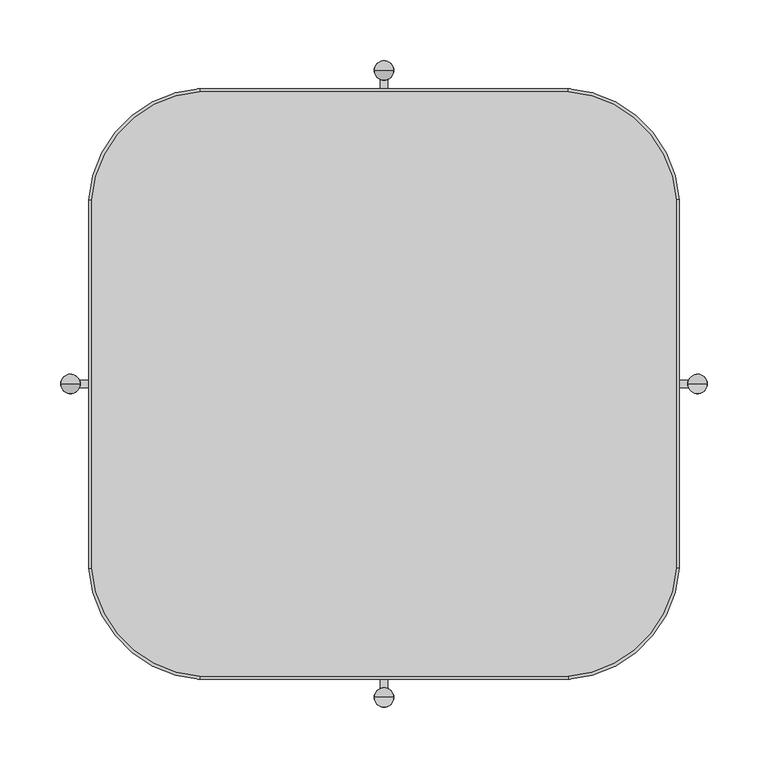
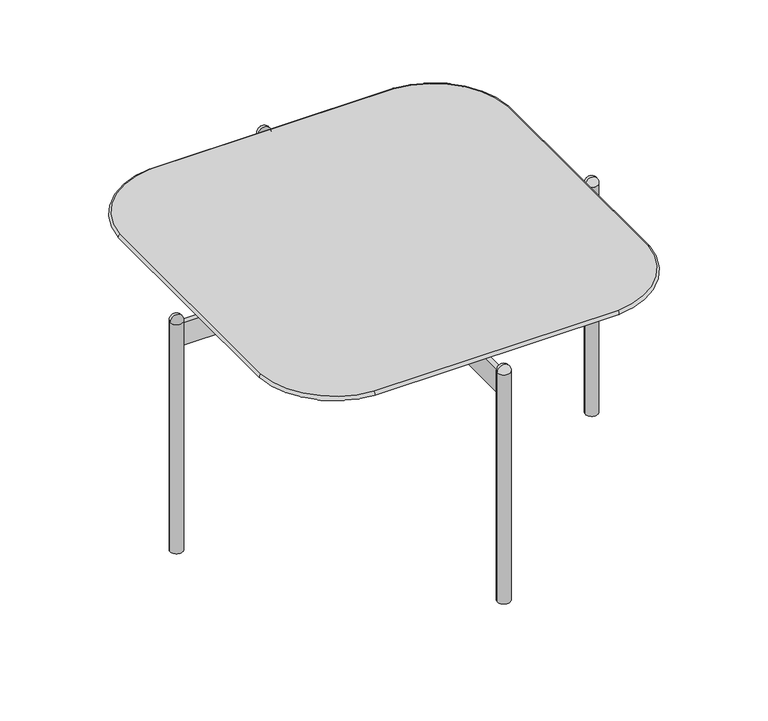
"""IFC4 building model written with IfcOpenShell, lengths in millimetres: furniture geometry, RECTANGULAR TABLE_H=31 : EI131B055050A_L."""

import ifcopenshell
import ifcopenshell.guid

model = None  # the IFC model being written
_history = None  # IfcOwnerHistory: only IFC2X3 demands one
_inside = {}  # id of a spatial element -> (the spatial element, [elements in it])
_under = {}  # id of a project, library or spatial element -> (it, [spatial elements below it])
_declared = {}  # id of a project -> (the project, [libraries it declares])
_typed = {}  # id of a type object -> (the type object, [elements of that type])
_made_of = {}  # id of a material, layer set ... -> (it, [elements and type objects made of it])


def new_model(schema):
    """Start an empty IFC model of exactly this schema.

    Asked for "IFC4X3", IfcOpenShell would pick the latest addendum, in which some entities
    have other attributes; the version numbers below select the first issue.
    IFC2X3 requires an IfcOwnerHistory on every rooted entity: one is made here for all.
    """
    global model, _history
    if schema == "IFC4X3":
        model = ifcopenshell.file(schema_version=(4, 3, 0, 0))
    else:
        model = ifcopenshell.file(schema=schema)
    _inside.clear()
    _under.clear()
    _declared.clear()
    _typed.clear()
    _made_of.clear()
    _history = None
    if model.schema == "IFC2X3":
        org = make("IfcOrganization", Name="unknown")
        user = make(
            "IfcPersonAndOrganization",
            ThePerson=make("IfcPerson", FamilyName="unknown"),
            TheOrganization=org,
        )
        app = make(
            "IfcApplication",
            ApplicationDeveloper=org,
            Version="unknown",
            ApplicationFullName="unknown",
            ApplicationIdentifier="unknown",
        )
        _history = make(
            "IfcOwnerHistory",
            OwningUser=user,
            OwningApplication=app,
            ChangeAction="ADDED",
            CreationDate=0,
        )
    return model


def make(cls, **values):
    """One entity of the class cls with the attributes given. An attribute that is None is left unset."""
    return model.create_entity(
        cls, **{name: value for name, value in values.items() if value is not None}
    )


def rooted(cls, **values):
    """An entity with a GlobalId (a new one), such as an element, a storey or a relation."""
    return make(cls, GlobalId=ifcopenshell.guid.new(), OwnerHistory=_history, **values)


def si_unit(unit_type, name, prefix=None):
    """IfcSIUnit, for example si_unit("LENGTHUNIT", "METRE", prefix="MILLI")."""
    return make("IfcSIUnit", UnitType=unit_type, Prefix=prefix, Name=name)


def assignment(units):
    """IfcUnitAssignment: the units of a project."""
    return None if units is None else make("IfcUnitAssignment", Units=units)


def point(xyz):
    """IfcCartesianPoint."""
    return None if xyz is None else make("IfcCartesianPoint", Coordinates=xyz)


def direction(xyz):
    """IfcDirection."""
    return None if xyz is None else make("IfcDirection", DirectionRatios=xyz)


def frame(location, z_axis=None, x_axis=None):
    """IfcAxis2Placement3D, a coordinate frame: its origin and axes. An axis left out is left unset."""
    return make(
        "IfcAxis2Placement3D",
        Location=point(location),
        Axis=direction(z_axis),
        RefDirection=direction(x_axis),
    )


def frame_2d(location, x_axis=None):
    """IfcAxis2Placement2D, a coordinate frame in the plane: its origin and x axis."""
    return make(
        "IfcAxis2Placement2D", Location=point(location), RefDirection=direction(x_axis)
    )


def origin():
    """The frame at (0, 0, 0) with its axes left unset."""
    return frame((0.0, 0.0, 0.0))


def origin_with_axes():
    """The frame at (0, 0, 0) with the z axis (0, 0, 1) and the x axis (1, 0, 0) written out."""
    return frame((0.0, 0.0, 0.0), z_axis=(0.0, 0.0, 1.0), x_axis=(1.0, 0.0, 0.0))


def origin_2d():
    """The frame at (0, 0) in the plane with its x axis left unset."""
    return frame_2d((0.0, 0.0))


def place(relative_to, where):
    """IfcLocalPlacement: puts the frame where relative to a parent placement (None: the world)."""
    return make(
        "IfcLocalPlacement", PlacementRelTo=relative_to, RelativePlacement=where
    )


def context(
    kind, dimensions, precision=None, world=None, true_north=None, identifier=None
):
    """IfcGeometricRepresentationContext, for example the 3D "Model" context."""
    return make(
        "IfcGeometricRepresentationContext",
        ContextIdentifier=identifier,
        ContextType=kind,
        CoordinateSpaceDimension=dimensions,
        Precision=precision,
        WorldCoordinateSystem=world,
        TrueNorth=true_north,
    )


def project(units=None, contexts=None):
    """IfcProject with its units and contexts."""
    return rooted(
        "IfcProject",
        Name="project",
        RepresentationContexts=contexts,
        UnitsInContext=assignment(units),
    )


def spatial(cls, under=None, at=None, **own):
    """A site, building, storey or space (cls), placed at a placement, below another one or the project."""
    s = rooted(cls, ObjectPlacement=at, **own)
    if under is not None:
        _under.setdefault(under.id(), (under, []))[1].append(s)
    return s


def polyline(points):
    """IfcPolyline through the points."""
    return make("IfcPolyline", Points=[point(p) for p in points])


def circle_curve(where, radius):
    """IfcCircle in the frame where."""
    return make("IfcCircle", Position=where, Radius=radius)


def ellipse_curve(where, semi_axis1, semi_axis2):
    """IfcEllipse in the frame where."""
    return make(
        "IfcEllipse", Position=where, SemiAxis1=semi_axis1, SemiAxis2=semi_axis2
    )


def trimmed(basis, trim1, trim2, sense, master):
    """IfcTrimmedCurve: the piece of a basis curve between two trims."""
    return make(
        "IfcTrimmedCurve",
        BasisCurve=basis,
        Trim1=trim1,
        Trim2=trim2,
        SenseAgreement=sense,
        MasterRepresentation=master,
    )


def segment(curve, same_sense, transition):
    """IfcCompositeCurveSegment."""
    return make(
        "IfcCompositeCurveSegment",
        Transition=transition,
        SameSense=same_sense,
        ParentCurve=curve,
    )


def composite_curve(segments, self_intersect=None):
    """IfcCompositeCurve: segments joined end to end."""
    return make("IfcCompositeCurve", Segments=segments, SelfIntersect=self_intersect)


def outline(outer, holes=None, kind="AREA"):
    """IfcArbitraryClosedProfileDef: a profile drawn as a closed curve; with holes, ...WithVoids."""
    if holes is None:
        return make("IfcArbitraryClosedProfileDef", ProfileType=kind, OuterCurve=outer)
    return make(
        "IfcArbitraryProfileDefWithVoids",
        ProfileType=kind,
        OuterCurve=outer,
        InnerCurves=holes,
    )


def extrude(swept, where, along, depth):
    """IfcExtrudedAreaSolid: the profile swept, set in the frame where, extruded along a direction by depth."""
    return make(
        "IfcExtrudedAreaSolid",
        SweptArea=swept,
        Position=where,
        ExtrudedDirection=direction(along),
        Depth=depth,
    )


def shape(context_of_items, identifier, shape_type, items):
    """IfcShapeRepresentation: the items that make up one representation, for example the "Body"."""
    return make(
        "IfcShapeRepresentation",
        ContextOfItems=context_of_items,
        RepresentationIdentifier=identifier,
        RepresentationType=shape_type,
        Items=items,
    )


def source(mapping_origin, context_of_items, identifier, shape_type, items):
    """IfcRepresentationMap: a shape defined once, which mapped items show again and again."""
    return make(
        "IfcRepresentationMap",
        MappingOrigin=mapping_origin,
        MappedRepresentation=shape(context_of_items, identifier, shape_type, items),
    )


def transform(
    local_origin,
    x_axis=None,
    y_axis=None,
    z_axis=None,
    scale=None,
    scale2=None,
    scale3=None,
    uniform=True,
):
    """IfcCartesianTransformationOperator3D, or its non-uniform kind. x_axis, y_axis, z_axis: its Axis1, 2, 3."""
    if uniform:
        return make(
            "IfcCartesianTransformationOperator3D",
            Axis1=direction(x_axis),
            Axis2=direction(y_axis),
            LocalOrigin=point(local_origin),
            Scale=scale,
            Axis3=direction(z_axis),
        )
    return make(
        "IfcCartesianTransformationOperator3DnonUniform",
        Axis1=direction(x_axis),
        Axis2=direction(y_axis),
        LocalOrigin=point(local_origin),
        Scale=scale,
        Axis3=direction(z_axis),
        Scale2=scale2,
        Scale3=scale3,
    )


def mapped(mapping_source, mapping_target):
    """IfcMappedItem: shows the shape of a source again, moved by a transform."""
    return make(
        "IfcMappedItem", MappingSource=mapping_source, MappingTarget=mapping_target
    )


def made_of(thing, what):
    """Note that an element or type object is made of a material, layer set ...; save() writes the relation."""
    if what is not None:
        _made_of.setdefault(what.id(), (what, []))[1].append(thing)
    return thing


def element(
    cls,
    number,
    at=None,
    inside=None,
    cuts=None,
    type_object=None,
    material=None,
    context=None,
    identifier="Body",
    shape_type=None,
    held_by="IfcProductDefinitionShape",
    body=None,
    shapes=None,
    **own,
):
    """One element of the class cls, such as IfcWall. Its Tag is "e" and its number.

    at: its placement. inside: the storey or other place that contains it. cuts: it is an
    opening in that element (IfcRelVoidsElement). A single representation is given by context,
    identifier, shape_type and body (its items); several are given by shapes. held_by: the class
    of the entity that holds the representations. save() writes the other relations.
    """
    e = rooted(cls, Tag="e%d" % number, ObjectPlacement=at, **own)
    if body is not None:
        shapes = [shape(context, identifier, shape_type, body)]
    if shapes is not None:
        e.Representation = make(held_by, Representations=shapes)
    if inside is not None:
        _inside.setdefault(inside.id(), (inside, []))[1].append(e)
    if cuts is not None:
        rooted(
            "IfcRelVoidsElement", RelatingBuildingElement=cuts, RelatedOpeningElement=e
        )
    if type_object is not None:
        _typed.setdefault(type_object.id(), (type_object, []))[1].append(e)
    return made_of(e, material)


def aggregate(whole, parts):
    """IfcRelAggregates: a whole, such as a stair, and the parts it consists of."""
    return rooted("IfcRelAggregates", RelatingObject=whole, RelatedObjects=parts)


def save(model, path):
    """Write the relations noted so far, then the file.

    IfcRelAggregates (storeys below a building ...), IfcRelContainedInSpatialStructure (elements
    in a storey), IfcRelDefinesByType, IfcRelAssociatesMaterial and IfcRelDeclares: one each for
    every whole, place, type object, material and project.
    """
    for whole, parts in _under.values():
        aggregate(whole, parts)
    for where, things in _inside.values():
        rooted(
            "IfcRelContainedInSpatialStructure",
            RelatedElements=things,
            RelatingStructure=where,
        )
    for kind, things in _typed.values():
        rooted("IfcRelDefinesByType", RelatedObjects=things, RelatingType=kind)
    for what, things in _made_of.values():
        rooted("IfcRelAssociatesMaterial", RelatedObjects=things, RelatingMaterial=what)
    for by, libraries in _declared.values():
        rooted("IfcRelDeclares", RelatingContext=by, RelatedDefinitions=libraries)
    model.write(path)


def plane_surface(at):
    """IfcPlane: the flat surface through the origin of the frame at, square to its z axis."""
    return make("IfcPlane", Position=at)


def revolved_surface(curve, axis_point, axis_direction):
    """IfcSurfaceOfRevolution: the curve turned about the line through axis_point along axis_direction."""
    return make(
        "IfcSurfaceOfRevolution",
        SweptCurve=make("IfcArbitraryOpenProfileDef", ProfileType="CURVE", Curve=curve),
        AxisPosition=make("IfcAxis1Placement", Location=point(axis_point), Axis=direction(axis_direction)),
    )


def advanced_brep(points, edges, surfaces, faces):
    """IfcAdvancedBrep: a solid bounded by faces that lie on surfaces and meet in shared edges.

    An edge is (start, end): straight between two places in points (the first is 0);
    or (start, end, curve); or (start, end, curve, False) where it runs against its curve.
    A face is (place in surfaces, loops), or (place, loops, False) where it looks against
    its surface's normal. A loop lists edges by number (the first is 1), with a minus sign
    where the edge is run from its end to its start. The first loop is the outer one.
    """
    corners = [point(p) for p in points]
    vertices = [make("IfcVertexPoint", VertexGeometry=c) for c in corners]
    made = []
    for start, end, *more in edges:
        made.append(
            make(
                "IfcEdgeCurve",
                EdgeStart=vertices[start],
                EdgeEnd=vertices[end],
                EdgeGeometry=more[0] if more else make("IfcPolyline", Points=[corners[start], corners[end]]),
                SameSense=more[1] if len(more) > 1 else True,
            )
        )
    hull = []
    for where, loops, *sense in faces:
        bounds = []
        for j, loop in enumerate(loops):
            ring = [make("IfcOrientedEdge", EdgeElement=made[abs(k) - 1], Orientation=k > 0) for k in loop]
            bounds.append(
                make(
                    "IfcFaceOuterBound" if j == 0 else "IfcFaceBound",
                    Bound=make("IfcEdgeLoop", EdgeList=ring),
                    Orientation=True,
                )
            )
        hull.append(make("IfcAdvancedFace", Bounds=bounds, FaceSurface=surfaces[where], SameSense=sense[0] if sense else True))
    return make("IfcAdvancedBrep", Outer=make("IfcClosedShell", CfsFaces=hull))


def furniture_a31ff325(model_context):
    return source(origin(), model_context, "Body", "SolidModel", [
        advanced_brep(
        [(-151.5352053, 240.3960668, 316.6939464), (-240.3960667, 151.5352053, 316.6939464), (-240.3960667, -151.5352052, 316.6939464), (-151.5352052, -240.3960667, 316.6939464), (151.5352053, -240.3960667, 316.6939464), (240.3960668, -151.5352052, 316.6939464), (240.3960668, 151.5352053, 316.6939464), (151.5352053, 240.3960668, 316.6939464), (-206.3711893, 149.2440678, 297.6939464), (-149.2440678, 206.3711893, 297.6939464), (149.2440678, 206.3711893, 297.6939464), (206.3711893, 149.2440678, 297.6939464), (206.3711893, -149.2440677, 297.6939464), (149.2440678, -206.3711893, 297.6939464), (-149.2440677, -206.3711893, 297.6939464), (-206.3711893, -149.2440677, 297.6939464), (-241.2735449, 151.5942922, 311.8273473), (-151.5942921, 241.273545, 311.8273473), (-241.2735449, -151.5942921, 311.8273473), (-151.5942921, -241.2735449, 311.8273473), (151.5942921, -241.2735449, 311.8273473), (241.273545, -151.5942921, 311.8273473), (241.273545, 151.5942921, 311.8273473), (151.5942921, 241.273545, 311.8273473)],
        [
            (0, 1, circle_curve(frame((-145.119559, 145.119559, 316.6939464), z_axis=(0.0, 0.0, 1.0), x_axis=(-0.06718498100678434, 0.997740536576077, 0.0)), 95.492269)),
            (1, 2, circle_curve(frame((2010.0000004, 0.0, 316.6939464), z_axis=(0.0, 0.0, 1.0), x_axis=(-0.9977405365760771, 0.06718498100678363, 0.0)), 2255.4922694)),
            (2, 3, circle_curve(frame((-145.1195589, -145.1195589, 316.6939464), z_axis=(0.0, 0.0, 1.0), x_axis=(-0.9977405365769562, -0.06718498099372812, 0.0)), 95.492269)),
            (3, 4, circle_curve(frame((0.0, 2010.0000004, 316.6939464), z_axis=(0.0, 0.0, 1.0), x_axis=(-0.06718498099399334, -0.9977405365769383, 0.0)), 2255.4922694)),
            (4, 5, circle_curve(frame((145.119559, -145.1195589, 316.6939464), z_axis=(0.0, 0.0, 1.0), x_axis=(0.06718498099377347, -0.997740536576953, 0.0)), 95.492269)),
            (5, 6, circle_curve(frame((-2010.0000004, 0.0, 316.6939464), z_axis=(0.0, 0.0, 1.0), x_axis=(0.9977405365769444, -0.0671849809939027, 0.0)), 2255.4922694)),
            (6, 7, circle_curve(frame((145.119559, 145.119559, 316.6939464), z_axis=(0.0, 0.0, 1.0), x_axis=(0.9977405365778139, 0.06718498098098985, 0.0)), 95.4922691)),
            (7, 0, circle_curve(frame((0.0, -2010.0000004, 316.6939464), z_axis=(0.0, 0.0, 1.0), x_axis=(0.06718498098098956, 0.9977405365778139, 0.0)), 2255.4922694)),
            (8, 9, circle_curve(frame((-145.119559, 145.119559, 297.6939464), z_axis=(0.0, 0.0, -1.0), x_axis=(-0.06718498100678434, 0.997740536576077, 0.0)), 61.3903395)),
            (9, 10, circle_curve(frame((0.0, -2010.0000004, 297.6939464), z_axis=(0.0, 0.0, -1.0), x_axis=(0.06718498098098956, 0.9977405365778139, 0.0)), 2221.3903399)),
            (10, 11, circle_curve(frame((145.119559, 145.119559, 297.6939464), z_axis=(0.0, 0.0, -1.0), x_axis=(0.9977405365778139, 0.06718498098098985, 0.0)), 61.3903396)),
            (11, 12, circle_curve(frame((-2010.0000004, 0.0, 297.6939464), z_axis=(0.0, 0.0, -1.0), x_axis=(0.9977405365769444, -0.0671849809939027, 0.0)), 2221.3903399)),
            (12, 13, circle_curve(frame((145.119559, -145.1195589, 297.6939464), z_axis=(0.0, 0.0, -1.0), x_axis=(0.06718498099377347, -0.997740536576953, 0.0)), 61.3903396)),
            (13, 14, circle_curve(frame((0.0, 2010.0000004, 297.6939464), z_axis=(0.0, 0.0, -1.0), x_axis=(-0.06718498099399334, -0.9977405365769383, 0.0)), 2221.3903399)),
            (14, 15, circle_curve(frame((-145.1195589, -145.1195589, 297.6939464), z_axis=(0.0, 0.0, -1.0), x_axis=(-0.9977405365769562, -0.06718498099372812, 0.0)), 61.3903396)),
            (15, 8, circle_curve(frame((2010.0000004, 0.0, 297.6939464), z_axis=(0.0, 0.0, -1.0), x_axis=(-0.9977405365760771, 0.06718498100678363, 0.0)), 2221.3903399)),
            (16, 1, circle_curve(frame((-240.3960667, 151.5352053, 314.1811807), z_axis=(0.06718498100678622, 0.9977405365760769, 0.0), x_axis=(0.9977405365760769, -0.06718498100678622, 0.0)), 2.5127656)),
            (0, 17, circle_curve(frame((-151.5352053, 240.3960668, 314.1811807), z_axis=(-0.997740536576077, -0.06718498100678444, 0.0), x_axis=(0.06718498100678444, -0.997740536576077, 0.0)), 2.5127656)),
            (17, 16, circle_curve(frame((-145.119559, 145.119559, 311.8273473), z_axis=(0.0, 0.0, 1.0), x_axis=(-0.06718498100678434, 0.997740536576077, 0.0)), 96.3717344)),
            (17, 9),
            (8, 16),
            (16, 18, circle_curve(frame((2010.0000004, 0.0, 311.8273473), z_axis=(0.0, 0.0, 1.0), x_axis=(-0.9977405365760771, 0.06718498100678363, 0.0)), 2256.3717348)),
            (18, 2, circle_curve(frame((-240.3960667, -151.5352052, 314.1811807), z_axis=(-0.06718498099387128, 0.9977405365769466, 0.0), x_axis=(0.9977405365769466, 0.06718498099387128, 0.0)), 2.5127656)),
            (15, 18),
            (18, 19, circle_curve(frame((-145.1195589, -145.1195589, 311.8273473), z_axis=(0.0, 0.0, 1.0), x_axis=(-0.9977405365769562, -0.06718498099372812, 0.0)), 96.3717344)),
            (19, 3, circle_curve(frame((-151.5352052, -240.3960667, 314.1811807), z_axis=(-0.9977405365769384, 0.06718498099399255, 0.0), x_axis=(0.06718498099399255, 0.9977405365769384, 0.0)), 2.5127656)),
            (14, 19),
            (19, 20, circle_curve(frame((0.0, 2010.0000004, 311.8273473), z_axis=(0.0, 0.0, 1.0), x_axis=(-0.06718498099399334, -0.9977405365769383, 0.0)), 2256.3717348)),
            (20, 4, circle_curve(frame((151.5352053, -240.3960667, 314.1811807), z_axis=(-0.997740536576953, -0.06718498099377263, 0.0), x_axis=(-0.06718498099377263, 0.997740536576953, 0.0)), 2.5127656)),
            (13, 20),
            (20, 21, circle_curve(frame((145.119559, -145.1195589, 311.8273473), z_axis=(0.0, 0.0, 1.0), x_axis=(0.06718498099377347, -0.997740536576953, 0.0)), 96.3717344)),
            (21, 5, circle_curve(frame((240.3960668, -151.5352052, 314.1811807), z_axis=(-0.06718498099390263, -0.9977405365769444, 0.0), x_axis=(-0.9977405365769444, 0.06718498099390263, 0.0)), 2.5127656)),
            (12, 21),
            (21, 22, circle_curve(frame((-2010.0000004, 0.0, 311.8273473), z_axis=(0.0, 0.0, 1.0), x_axis=(0.9977405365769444, -0.0671849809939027, 0.0)), 2256.3717348)),
            (22, 6, circle_curve(frame((240.3960668, 151.5352053, 314.1811807), z_axis=(0.0671849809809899, -0.9977405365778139, 0.0), x_axis=(-0.9977405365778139, -0.0671849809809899, 0.0)), 2.5127656)),
            (11, 22),
            (22, 23, circle_curve(frame((145.119559, 145.119559, 311.8273473), z_axis=(0.0, 0.0, 1.0), x_axis=(0.9977405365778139, 0.06718498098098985, 0.0)), 96.3717344)),
            (23, 7, circle_curve(frame((151.5352053, 240.3960668, 314.1811807), z_axis=(0.997740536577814, -0.06718498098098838, 0.0), x_axis=(-0.06718498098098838, -0.997740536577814, 0.0)), 2.5127656)),
            (10, 23),
            (23, 17, circle_curve(frame((0.0, -2010.0000004, 311.8273473), z_axis=(0.0, 0.0, 1.0), x_axis=(0.06718498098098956, 0.9977405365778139, 0.0)), 2256.3717348)),
        ],
        [
            plane_surface(frame((4269.0000009, 0.0, 316.6939464), z_axis=(0.0, 0.0, 1.0), x_axis=(0.0, 1.0, 0.0))),
            plane_surface(frame((4269.0000009, 0.0, 297.6939464), z_axis=(0.0, 0.0, -1.0), x_axis=(0.0, -1.0, 0.0))),
            revolved_surface(trimmed(ellipse_curve(frame((-151.5352053, 240.3960668, 314.1811807), z_axis=(0.997740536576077, 0.06718498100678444, 0.0), x_axis=(0.06718498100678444, -0.997740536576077, 0.0)), 2.5127656, 2.5127656), [point((-151.5942921, 241.273545, 311.8273473))], [point((-151.5352053, 240.3960668, 316.6939464))], True, "CARTESIAN"), (-145.119559, 145.119559, 297.6939464), (0.0, 0.0, 1.0)),
            revolved_surface(polyline([(-149.2440678, 206.3711893, 297.6939464), (-151.5942921, 241.273545, 311.8273473)]), (-145.119559, 145.119559, 297.6939464), (0.0, 0.0, 1.0)),
            revolved_surface(trimmed(ellipse_curve(frame((-240.3960667, 151.5352053, 314.1811807), z_axis=(0.0671849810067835, 0.9977405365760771, 0.0), x_axis=(0.9977405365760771, -0.0671849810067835, 0.0)), 2.5127656, 2.5127656), [point((-241.2735449, 151.5942922, 311.8273473))], [point((-240.3960667, 151.5352053, 316.6939464))], True, "CARTESIAN"), (2010.0000004, 0.0, 297.6939464), (0.0, 0.0, 1.0)),
            revolved_surface(polyline([(-206.3711893, 149.2440678, 297.6939464), (-241.2735449, 151.5942922, 311.8273473)]), (2010.0000004, 0.0, 297.6939464), (0.0, 0.0, 1.0)),
            revolved_surface(trimmed(ellipse_curve(frame((-240.3960667, -151.5352052, 314.1811807), z_axis=(-0.06718498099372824, 0.9977405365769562, 0.0), x_axis=(0.9977405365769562, 0.06718498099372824, 0.0)), 2.5127656, 2.5127656), [point((-241.2735449, -151.5942921, 311.8273473))], [point((-240.3960667, -151.5352052, 316.6939464))], True, "CARTESIAN"), (-145.1195589, -145.1195589, 297.6939464), (0.0, 0.0, 1.0)),
            revolved_surface(polyline([(-206.3711893, -149.2440677, 297.6939464), (-241.2735449, -151.5942921, 311.8273473)]), (-145.1195589, -145.1195589, 297.6939464), (0.0, 0.0, 1.0)),
            revolved_surface(trimmed(ellipse_curve(frame((-151.5352052, -240.3960667, 314.1811807), z_axis=(-0.9977405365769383, 0.06718498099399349, 0.0), x_axis=(0.06718498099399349, 0.9977405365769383, 0.0)), 2.5127656, 2.5127656), [point((-151.5942921, -241.2735449, 311.8273473))], [point((-151.5352052, -240.3960667, 316.6939464))], True, "CARTESIAN"), (0.0, 2010.0000004, 297.6939464), (0.0, 0.0, 1.0)),
            revolved_surface(polyline([(-149.2440677, -206.3711893, 297.6939464), (-151.5942921, -241.2735449, 311.8273473)]), (0.0, 2010.0000004, 297.6939464), (0.0, 0.0, 1.0)),
            revolved_surface(trimmed(ellipse_curve(frame((151.5352053, -240.3960667, 314.1811807), z_axis=(-0.997740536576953, -0.06718498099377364, 0.0), x_axis=(-0.06718498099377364, 0.997740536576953, 0.0)), 2.5127656, 2.5127656), [point((151.5942921, -241.2735449, 311.8273473))], [point((151.5352053, -240.3960667, 316.6939464))], True, "CARTESIAN"), (145.119559, -145.1195589, 297.6939464), (0.0, 0.0, 1.0)),
            revolved_surface(polyline([(149.2440678, -206.3711893, 297.6939464), (151.5942921, -241.2735449, 311.8273473)]), (145.119559, -145.1195589, 297.6939464), (0.0, 0.0, 1.0)),
            revolved_surface(trimmed(ellipse_curve(frame((240.3960668, -151.5352052, 314.1811807), z_axis=(-0.06718498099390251, -0.9977405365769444, 0.0), x_axis=(-0.9977405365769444, 0.06718498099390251, 0.0)), 2.5127656, 2.5127656), [point((241.273545, -151.5942921, 311.8273473))], [point((240.3960668, -151.5352052, 316.6939464))], True, "CARTESIAN"), (-2010.0000004, 0.0, 297.6939464), (0.0, 0.0, 1.0)),
            revolved_surface(polyline([(206.3711893, -149.2440677, 297.6939464), (241.273545, -151.5942921, 311.8273473)]), (-2010.0000004, 0.0, 297.6939464), (0.0, 0.0, 1.0)),
            revolved_surface(trimmed(ellipse_curve(frame((240.3960668, 151.5352053, 314.1811807), z_axis=(0.06718498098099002, -0.9977405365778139, 0.0), x_axis=(-0.9977405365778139, -0.06718498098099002, 0.0)), 2.5127656, 2.5127656), [point((241.273545, 151.5942921, 311.8273473))], [point((240.3960668, 151.5352053, 316.6939464))], True, "CARTESIAN"), (145.119559, 145.119559, 297.6939464), (0.0, 0.0, 1.0)),
            revolved_surface(polyline([(206.3711893, 149.2440678, 297.6939464), (241.273545, 151.5942921, 311.8273473)]), (145.119559, 145.119559, 297.6939464), (0.0, 0.0, 1.0)),
            revolved_surface(trimmed(ellipse_curve(frame((151.5352053, 240.3960668, 314.1811807), z_axis=(0.9977405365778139, -0.0671849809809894, 0.0), x_axis=(-0.0671849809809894, -0.9977405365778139, 0.0)), 2.5127656, 2.5127656), [point((151.5942921, 241.273545, 311.8273473))], [point((151.5352053, 240.3960668, 316.6939464))], True, "CARTESIAN"), (0.0, -2010.0000004, 297.6939464), (0.0, 0.0, 1.0)),
            revolved_surface(polyline([(149.2440678, 206.3711893, 297.6939464), (151.5942921, 241.273545, 311.8273473)]), (0.0, -2010.0000004, 297.6939464), (0.0, 0.0, 1.0)),
        ],
        [
            (0, [[1, 2, 3, 4, 5, 6, 7, 8]]),
            (1, [[9, 10, 11, 12, 13, 14, 15, 16]]),
            (2, [[17, -1, 18, 19]]),
            (3, [[-19, 20, -9, 21]]),
            (4, [[-17, 22, 23, -2]]),
            (5, [[-21, -16, 24, -22]]),
            (6, [[-23, 25, 26, -3]]),
            (7, [[-24, -15, 27, -25]]),
            (8, [[-26, 28, 29, -4]]),
            (9, [[-27, -14, 30, -28]]),
            (10, [[-29, 31, 32, -5]]),
            (11, [[-30, -13, 33, -31]]),
            (12, [[-32, 34, 35, -6]]),
            (13, [[-33, -12, 36, -34]]),
            (14, [[-35, 37, 38, -7]]),
            (15, [[-36, -11, 39, -37]]),
            (16, [[-18, -8, -38, 40]]),
            (17, [[-20, -40, -39, -10]]),
        ],
    ),
        advanced_brep(
        [(-8.0, -257.95, 301.1666667), (8.0, -257.95, 301.1666667), (0.0, -257.95, 309.1666667), (0.0, -257.95, 301.1666667)],
        [
            (0, 1, circle_curve(frame((0.0, -257.95, 301.1666667), z_axis=(0.0, 0.0, 1.0), x_axis=(1.0, 0.0, 0.0)), 8.0)),
            (1, 2, circle_curve(frame((0.0, -257.95, 301.1666667), z_axis=(0.0, -1.0, 0.0), x_axis=(1.0, 0.0, 0.0)), 8.0)),
            (2, 0, circle_curve(frame((0.0, -257.95, 301.1666667), z_axis=(0.0, -1.0, 0.0), x_axis=(-1.0, 0.0, 0.0)), 8.0)),
            (1, 0, circle_curve(frame((0.0, -257.95, 301.1666667), z_axis=(0.0, 0.0, 1.0), x_axis=(1.0, 0.0, 0.0)), 8.0)),
            (3, 1),
            (0, 3),
        ],
        [
            revolved_surface(trimmed(ellipse_curve(frame((0.0, -257.95, 301.1666667), z_axis=(0.0, 1.0, 0.0), x_axis=(1.0, 0.0, 0.0)), 8.0, 8.0), [point((0.0, -257.95, 309.1666667))], [point((8.0, -257.95, 301.1666667))], True, "CARTESIAN"), (0.0, -257.95, 2498.4), (0.0, 0.0, -1.0)),
            plane_surface(frame((0.0, -257.95, 301.1666667), z_axis=(0.0, 0.0, -1.0), x_axis=(1.0, 0.0, 0.0))),
        ],
        [
            (0, [[1, 2, 3]]),
            (0, [[4, -3, -2]]),
            (1, [[5, -1, 6]]),
            (1, [[-6, -4, -5]]),
        ],
    ),
        advanced_brep(
        [(265.95, 0.0, 301.1666667), (249.95, 0.0, 301.1666667), (257.95, 0.0, 309.1666667), (257.95, 0.0, 301.1666667)],
        [
            (0, 1, circle_curve(frame((257.95, 0.0, 301.1666667), z_axis=(0.0, 0.0, 1.0), x_axis=(-1.0, 0.0, 0.0)), 8.0)),
            (1, 2, circle_curve(frame((257.95, 0.0, 301.1666667), z_axis=(0.0, 1.0, 0.0), x_axis=(-1.0, 0.0, 0.0)), 8.0)),
            (2, 0, circle_curve(frame((257.95, 0.0, 301.1666667), z_axis=(0.0, 1.0, 0.0), x_axis=(1.0, 0.0, 0.0)), 8.0)),
            (1, 0, circle_curve(frame((257.95, 0.0, 301.1666667), z_axis=(0.0, 0.0, 1.0), x_axis=(-1.0, 0.0, 0.0)), 8.0)),
            (3, 1),
            (0, 3),
        ],
        [
            revolved_surface(trimmed(ellipse_curve(frame((257.95, 0.0, 301.1666667), z_axis=(0.0, -1.0, 0.0), x_axis=(-1.0, 0.0, 0.0)), 8.0, 8.0), [point((257.95, 0.0, 309.1666667))], [point((249.95, 0.0, 301.1666667))], True, "CARTESIAN"), (257.95, 0.0, 2498.4), (0.0, 0.0, -1.0)),
            plane_surface(frame((257.95, 0.0, 301.1666667), z_axis=(0.0, 0.0, -1.0), x_axis=(-1.0, 0.0, 0.0))),
        ],
        [
            (0, [[1, 2, 3]]),
            (0, [[4, -3, -2]]),
            (1, [[5, -1, 6]]),
            (1, [[-6, -4, -5]]),
        ],
    ),
        advanced_brep(
        [(0.0, 257.95, 309.1666667), (8.0, 257.95, 301.1666667), (-8.0, 257.95, 301.1666667), (0.0, 257.95, 301.1666667)],
        [
            (0, 1, circle_curve(frame((0.0, 257.95, 301.1666667), z_axis=(0.0, 1.0, 0.0), x_axis=(1.0, 0.0, 0.0)), 8.0)),
            (1, 2, circle_curve(frame((0.0, 257.95, 301.1666667), z_axis=(0.0, 0.0, 1.0), x_axis=(1.0, 0.0, 0.0)), 8.0)),
            (2, 0, circle_curve(frame((0.0, 257.95, 301.1666667), z_axis=(0.0, 1.0, 0.0), x_axis=(-1.0, 0.0, 0.0)), 8.0)),
            (2, 1, circle_curve(frame((0.0, 257.95, 301.1666667), z_axis=(0.0, 0.0, 1.0), x_axis=(1.0, 0.0, 0.0)), 8.0)),
            (1, 3),
            (3, 2),
        ],
        [
            revolved_surface(trimmed(ellipse_curve(frame((0.0, 257.95, 301.1666667), z_axis=(0.0, -1.0, 0.0), x_axis=(1.0, 0.0, 0.0)), 8.0, 8.0), [point((8.0, 257.95, 301.1666667))], [point((0.0, 257.95, 309.1666667))], True, "CARTESIAN"), (0.0, 257.95, 2498.4), (0.0, 0.0, 1.0)),
            plane_surface(frame((0.0, 257.95, 301.1666667), z_axis=(0.0, 0.0, -1.0), x_axis=(1.0, 0.0, 0.0))),
        ],
        [
            (0, [[1, 2, 3]]),
            (0, [[-3, 4, -1]]),
            (1, [[-2, 5, 6]]),
            (1, [[-4, -6, -5]]),
        ],
    ),
        advanced_brep(
        [(-257.95, 0.0, 309.1666667), (-249.95, 0.0, 301.1666667), (-265.95, 0.0, 301.1666667), (-257.95, 0.0, 301.1666667)],
        [
            (0, 1, circle_curve(frame((-257.95, 0.0, 301.1666667), z_axis=(0.0, 1.0, 0.0), x_axis=(1.0, 0.0, 0.0)), 8.0)),
            (1, 2, circle_curve(frame((-257.95, 0.0, 301.1666667), z_axis=(0.0, 0.0, 1.0), x_axis=(1.0, 0.0, 0.0)), 8.0)),
            (2, 0, circle_curve(frame((-257.95, 0.0, 301.1666667), z_axis=(0.0, 1.0, 0.0), x_axis=(-1.0, 0.0, 0.0)), 8.0)),
            (2, 1, circle_curve(frame((-257.95, 0.0, 301.1666667), z_axis=(0.0, 0.0, 1.0), x_axis=(1.0, 0.0, 0.0)), 8.0)),
            (1, 3),
            (3, 2),
        ],
        [
            revolved_surface(trimmed(ellipse_curve(frame((-257.95, 0.0, 301.1666667), z_axis=(0.0, -1.0, 0.0), x_axis=(1.0, 0.0, 0.0)), 8.0, 8.0), [point((-249.95, 0.0, 301.1666667))], [point((-257.95, 0.0, 309.1666667))], True, "CARTESIAN"), (-257.95, 0.0, 2498.4), (0.0, 0.0, 1.0)),
            plane_surface(frame((-257.95, 0.0, 301.1666667), z_axis=(0.0, 0.0, -1.0), x_axis=(1.0, 0.0, 0.0))),
        ],
        [
            (0, [[1, 2, 3]]),
            (0, [[-3, 4, -1]]),
            (1, [[-2, 5, 6]]),
            (1, [[-4, -6, -5]]),
        ],
    ),
        extrude(outline(composite_curve([segment(trimmed(circle_curve(origin_2d(), 23.0), [point((3.0, 22.8035085))], [point((-3.0, 22.8035085))], True, "CARTESIAN"), True, "CONTINUOUS"), segment(polyline([(-3.0, 22.8035085), (-3.0, 250.5338015)]), True, "CONTINUOUS"), segment(trimmed(circle_curve(frame_2d((0.0, 257.95)), 8.0), [point((-3.0, 250.5338015))], [point((3.0, 250.5338015))], True, "CARTESIAN"), True, "CONTINUOUS"), segment(polyline([(3.0, 250.5338015), (3.0, 22.8035085)]), True, "CONTINUOUS")], self_intersect=False)), frame((0.0, 0.0, 267.6939464), z_axis=(0.0, 0.0, 1.0), x_axis=(1.0, 0.0, 0.0)), (0.0, 0.0, 1.0), 30.0),
        extrude(outline(composite_curve([segment(trimmed(circle_curve(origin_2d(), 23.0), [point((-3.0, -22.8035085))], [point((3.0, -22.8035085))], True, "CARTESIAN"), True, "CONTINUOUS"), segment(polyline([(3.0, -22.8035085), (3.0, -250.5338015)]), True, "CONTINUOUS"), segment(trimmed(circle_curve(frame_2d((0.0, -257.95)), 8.0), [point((3.0, -250.5338015))], [point((-3.0, -250.5338015))], True, "CARTESIAN"), True, "CONTINUOUS"), segment(polyline([(-3.0, -250.5338015), (-3.0, -22.8035085)]), True, "CONTINUOUS")], self_intersect=False)), frame((0.0, 0.0, 267.6939464), z_axis=(0.0, 0.0, 1.0), x_axis=(1.0, 0.0, 0.0)), (0.0, 0.0, 1.0), 30.0),
        extrude(outline(composite_curve([segment(trimmed(circle_curve(origin_2d(), 23.0), [point((-22.8035085, 3.0))], [point((-22.8035085, -3.0))], True, "CARTESIAN"), True, "CONTINUOUS"), segment(polyline([(-22.8035085, -3.0), (-250.5338015, -3.0)]), True, "CONTINUOUS"), segment(trimmed(circle_curve(frame_2d((-257.95, 0.0)), 8.0), [point((-250.5338015, -3.0))], [point((-249.95, 0.0))], True, "CARTESIAN"), True, "CONTINUOUS"), segment(trimmed(circle_curve(frame_2d((-257.95, 0.0)), 8.0), [point((-249.95, 0.0))], [point((-250.5338015, 3.0))], True, "CARTESIAN"), True, "CONTINUOUS"), segment(polyline([(-250.5338015, 3.0), (-22.8035085, 3.0)]), True, "CONTINUOUS")], self_intersect=False)), frame((0.0, 0.0, 267.6939464), z_axis=(0.0, 0.0, 1.0), x_axis=(1.0, 0.0, 0.0)), (0.0, 0.0, 1.0), 30.0),
        extrude(outline(composite_curve([segment(trimmed(circle_curve(origin_2d(), 23.0), [point((22.8035085, -3.0))], [point((22.8035085, 3.0))], True, "CARTESIAN"), True, "CONTINUOUS"), segment(polyline([(22.8035085, 3.0), (250.5338015, 3.0)]), True, "CONTINUOUS"), segment(trimmed(circle_curve(frame_2d((257.95, 0.0)), 8.0), [point((250.5338015, 3.0))], [point((249.95, 0.0))], True, "CARTESIAN"), True, "CONTINUOUS"), segment(trimmed(circle_curve(frame_2d((257.95, 0.0)), 8.0), [point((249.95, 0.0))], [point((250.5338015, -3.0))], True, "CARTESIAN"), True, "CONTINUOUS"), segment(polyline([(250.5338015, -3.0), (22.8035085, -3.0)]), True, "CONTINUOUS")], self_intersect=False)), frame((0.0, 0.0, 267.6939464), z_axis=(0.0, 0.0, 1.0), x_axis=(1.0, 0.0, 0.0)), (0.0, 0.0, 1.0), 30.0),
        extrude(outline(composite_curve([segment(trimmed(circle_curve(origin_2d(), 23.0), [point((-23.0, 0.0))], [point((23.0, 0.0))], False, "CARTESIAN"), True, "CONTINUOUS"), segment(trimmed(circle_curve(origin_2d(), 23.0), [point((23.0, 0.0))], [point((-23.0, 0.0))], False, "CARTESIAN"), True, "CONTINUOUS")], self_intersect=False)), frame((0.0, 0.0, 267.6939464), z_axis=(0.0, 0.0, 1.0), x_axis=(1.0, 0.0, 0.0)), (0.0, 0.0, 1.0), 30.0),
        extrude(outline(composite_curve([segment(trimmed(circle_curve(frame_2d((0.0, 257.95)), 8.0), [point((-8.0, 257.95))], [point((8.0, 257.95))], False, "CARTESIAN"), True, "CONTINUOUS"), segment(trimmed(circle_curve(frame_2d((0.0, 257.95)), 8.0), [point((8.0, 257.95))], [point((-8.0, 257.95))], False, "CARTESIAN"), True, "CONTINUOUS")], self_intersect=False)), origin_with_axes(), (0.0, 0.0, 1.0), 301.1666667),
        extrude(outline(composite_curve([segment(trimmed(circle_curve(frame_2d((-257.95, 0.0)), 8.0), [point((-265.95, 0.0))], [point((-249.95, 0.0))], False, "CARTESIAN"), True, "CONTINUOUS"), segment(trimmed(circle_curve(frame_2d((-257.95, 0.0)), 8.0), [point((-249.95, 0.0))], [point((-265.95, 0.0))], False, "CARTESIAN"), True, "CONTINUOUS")], self_intersect=False)), origin_with_axes(), (0.0, 0.0, 1.0), 301.1666667),
        extrude(outline(composite_curve([segment(trimmed(circle_curve(frame_2d((0.0, -257.95)), 8.0), [point((-8.0, -257.95))], [point((8.0, -257.95))], False, "CARTESIAN"), True, "CONTINUOUS"), segment(trimmed(circle_curve(frame_2d((0.0, -257.95)), 8.0), [point((8.0, -257.95))], [point((-8.0, -257.95))], False, "CARTESIAN"), True, "CONTINUOUS")], self_intersect=False)), origin_with_axes(), (0.0, 0.0, 1.0), 301.1666667),
        extrude(outline(composite_curve([segment(trimmed(circle_curve(frame_2d((257.95, 0.0)), 8.0), [point((249.95, 0.0))], [point((265.95, 0.0))], False, "CARTESIAN"), True, "CONTINUOUS"), segment(trimmed(circle_curve(frame_2d((257.95, 0.0)), 8.0), [point((265.95, 0.0))], [point((249.95, 0.0))], False, "CARTESIAN"), True, "CONTINUOUS")], self_intersect=False)), origin_with_axes(), (0.0, 0.0, 1.0), 301.1666667),
    ])


if __name__ == "__main__":
    model = new_model("IFC4")
    model_context = context("Model", 3, world=origin())
    ifc_project = project(units=[si_unit("LENGTHUNIT", "METRE", prefix="MILLI")], contexts=[model_context])
    site = spatial("IfcSite", under=ifc_project)
    building = spatial("IfcBuilding", under=site)
    placement = place(None, origin())
    furniture_shape = furniture_a31ff325(model_context)
    element("IfcFurniture", 1, ObjectType="RECTANGULAR TABLE_H=31 : EI131B055050A_L", at=placement, inside=building, context=model_context, shape_type="MappedRepresentation", body=[
        mapped(furniture_shape, transform((0.0, 0.0, 0.0), x_axis=(1.0, 0.0, 0.0), y_axis=(0.0, 1.0, 0.0), z_axis=(0.0, 0.0, 1.0))),
    ])
    save(model, "model.ifc")
